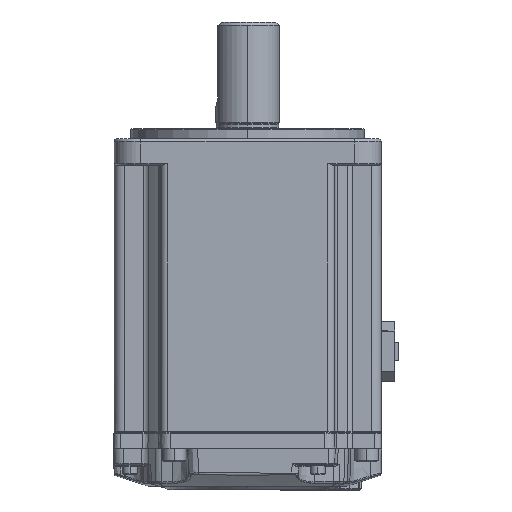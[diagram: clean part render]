
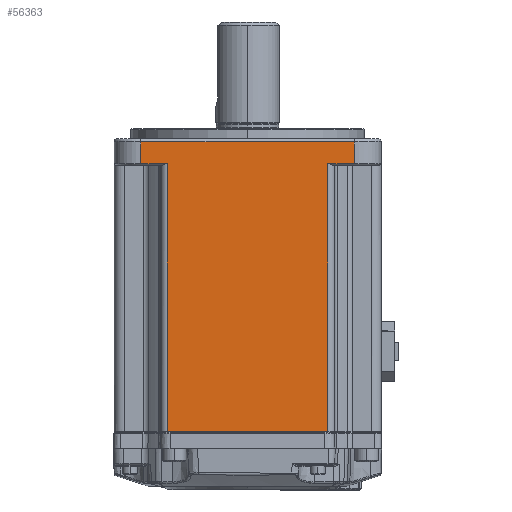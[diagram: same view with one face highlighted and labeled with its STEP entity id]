
A CAD part, top view. The second image highlights one B-rep face of the part: STEP entity #56363.
In plain terms, the highlighted planar face has unit normal (0, 0, 1).
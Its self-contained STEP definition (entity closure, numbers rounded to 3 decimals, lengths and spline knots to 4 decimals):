
#4261=DIRECTION('',(0.,1.,0.));
#4262=VECTOR('',#4261,0.2559);
#4263=CARTESIAN_POINT('',(1.2598,-0.2953,
1.5748));
#4264=LINE('',#4263,#4262);
#4334=DIRECTION('',(1.,0.,0.));
#4335=VECTOR('',#4334,0.3136);
#4336=CARTESIAN_POINT('',(0.9462,-0.2953,
1.5748));
#4337=LINE('',#4336,#4335);
#4338=DIRECTION('',(-1.,0.,0.));
#4339=VECTOR('',#4338,1.8925);
#4340=CARTESIAN_POINT('',(0.9462,-3.4567,
1.5748));
#4341=LINE('',#4340,#4339);
#4342=DIRECTION('',(0.,1.,0.));
#4343=VECTOR('',#4342,3.1614);
#4344=CARTESIAN_POINT('',(0.9462,-3.4567,
1.5748));
#4345=LINE('',#4344,#4343);
#7812=DIRECTION('',(-1.,0.,0.));
#7813=VECTOR('',#7812,2.5197);
#7814=CARTESIAN_POINT('',(1.2598,-0.0394,
1.5748));
#7815=LINE('',#7814,#7813);
#7820=DIRECTION('',(0.,-1.,0.));
#7821=VECTOR('',#7820,0.2559);
#7822=CARTESIAN_POINT('',(-1.2598,-0.0394,
1.5748));
#7823=LINE('',#7822,#7821);
#7897=DIRECTION('',(1.,0.,0.));
#7898=VECTOR('',#7897,0.3136);
#7899=CARTESIAN_POINT('',(-1.2598,-0.2953,
1.5748));
#7900=LINE('',#7899,#7898);
#7909=DIRECTION('',(0.,-1.,0.));
#7910=VECTOR('',#7909,3.1614);
#7911=CARTESIAN_POINT('',(-0.9462,-0.2953,
1.5748));
#7912=LINE('',#7911,#7910);
#43696=CARTESIAN_POINT('',(-1.2598,-0.0394,
1.5748));
#43697=VERTEX_POINT('',#43696);
#43698=CARTESIAN_POINT('',(1.2598,-0.0394,
1.5748));
#43699=VERTEX_POINT('',#43698);
#43700=CARTESIAN_POINT('',(1.2598,-0.2953,
1.5748));
#43701=VERTEX_POINT('',#43700);
#43702=CARTESIAN_POINT('',(0.9462,-0.2953,
1.5748));
#43703=VERTEX_POINT('',#43702);
#43704=CARTESIAN_POINT('',(0.9462,-3.4567,
1.5748));
#43705=VERTEX_POINT('',#43704);
#43706=CARTESIAN_POINT('',(-0.9462,-3.4567,
1.5748));
#43707=VERTEX_POINT('',#43706);
#43708=CARTESIAN_POINT('',(-0.9462,-0.2953,
1.5748));
#43709=VERTEX_POINT('',#43708);
#43710=CARTESIAN_POINT('',(-1.2598,-0.2953,
1.5748));
#43711=VERTEX_POINT('',#43710);
#56342=CARTESIAN_POINT('',(-1.5748,0.,1.5748));
#56343=DIRECTION('',(0.,0.,1.));
#56344=DIRECTION('',(1.,0.,0.));
#56345=AXIS2_PLACEMENT_3D('',#56342,#56343,#56344);
#56346=PLANE('',#56345);
#56347=ORIENTED_EDGE('',*,*,#56333,.F.);
#56349=ORIENTED_EDGE('',*,*,#56348,.F.);
#56351=ORIENTED_EDGE('',*,*,#56350,.T.);
#56353=ORIENTED_EDGE('',*,*,#56352,.F.);
#56355=ORIENTED_EDGE('',*,*,#56354,.F.);
#56357=ORIENTED_EDGE('',*,*,#56356,.F.);
#56359=ORIENTED_EDGE('',*,*,#56358,.F.);
#56360=ORIENTED_EDGE('',*,*,#56273,.F.);
#56361=EDGE_LOOP('',(#56347,#56349,#56351,#56353,#56355,#56357,#56359,#56360));
#56362=FACE_OUTER_BOUND('',#56361,.F.);
#56273=EDGE_CURVE('',#43701,#43699,#4264,.T.);
#56333=EDGE_CURVE('',#43703,#43701,#4337,.T.);
#56348=EDGE_CURVE('',#43705,#43703,#4345,.T.);
#56350=EDGE_CURVE('',#43705,#43707,#4341,.T.);
#56352=EDGE_CURVE('',#43709,#43707,#7912,.T.);
#56354=EDGE_CURVE('',#43711,#43709,#7900,.T.);
#56356=EDGE_CURVE('',#43697,#43711,#7823,.T.);
#56358=EDGE_CURVE('',#43699,#43697,#7815,.T.);
#56363=ADVANCED_FACE('',(#56362),#56346,.T.);
